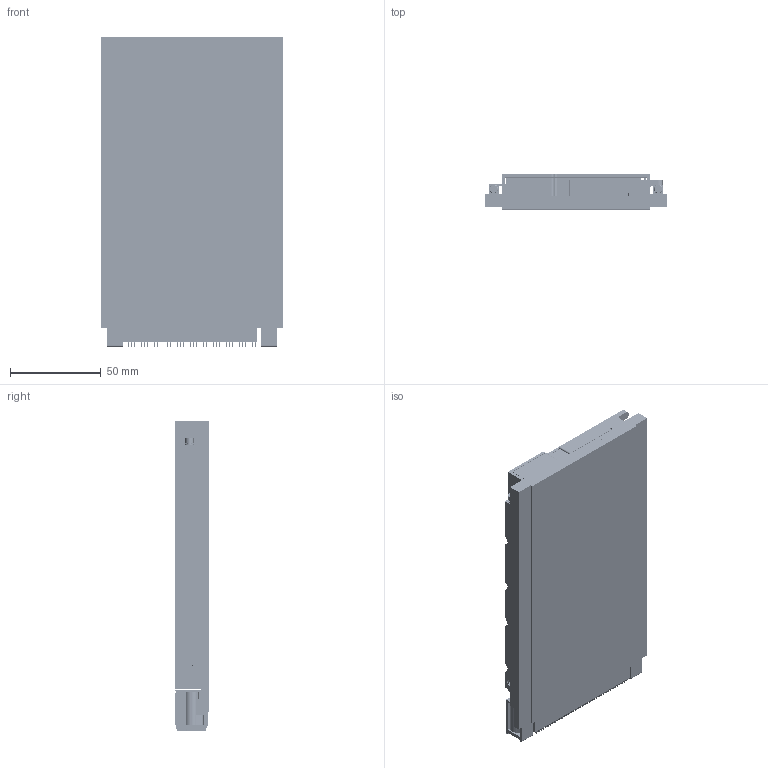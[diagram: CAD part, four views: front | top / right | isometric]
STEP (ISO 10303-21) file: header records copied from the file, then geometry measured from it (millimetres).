
FILE_DESCRIPTION (( 'STEP AP203' ), '1' );
FILE_NAME ('3U-VPX48.2-PS-265HC-82880.step', '2018-06-15T21:04:58', ( '' ), ( '' ), 'SwSTEP 2.0', 'SolidWorks 2014', '' );
FILE_SCHEMA (( 'CONFIG_CONTROL_DESIGN' ));
Products named in the file (1): 3U-VPX48.2-PS-265HC-82880
Bounding box: 100 x 19.27 x 170.75 mm (x, y, z)
Volume: 255558 mm3; surface area: 218961 mm2
Topology: 300 solids, 300 shells, 21622 faces, 60738 edges, 39383 vertices
Faces by surface type: plane 17808, cylinder 2659, bspline 1000, cone 154, torus 1
Entity records: 738429 total; most frequent: CARTESIAN_POINT 189757, ORIENTED_EDGE 117820, DIRECTION 104560, EDGE_CURVE 58910, LINE 50952, VECTOR 50952, VERTEX_POINT 39383, AXIS2_PLACEMENT_3D 26804
